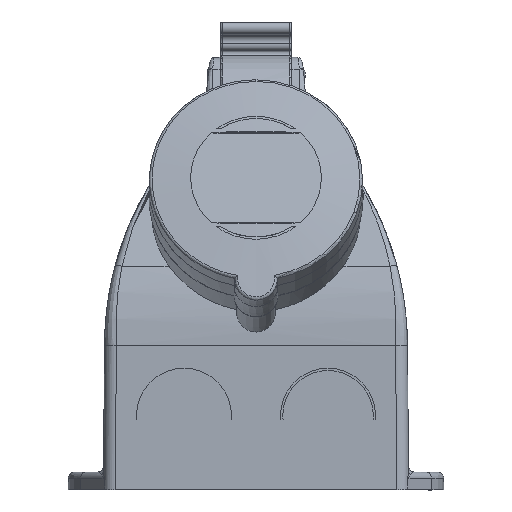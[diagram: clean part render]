
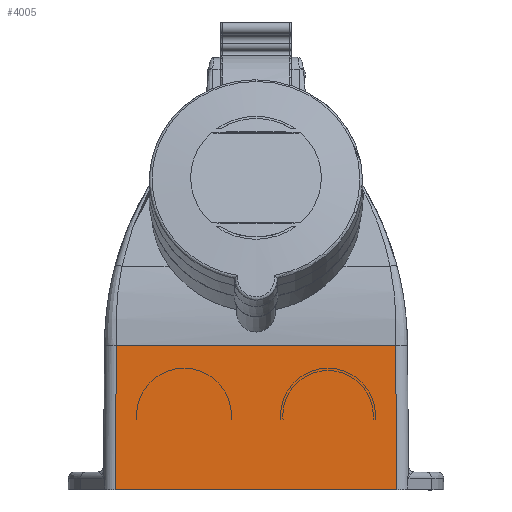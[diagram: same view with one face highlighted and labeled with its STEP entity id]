
A CAD part, front view. The second image highlights one B-rep face of the part: STEP entity #4005.
In plain terms, the highlighted planar face has unit normal (0, -1, 0.009).
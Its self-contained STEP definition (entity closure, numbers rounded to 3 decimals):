
#2153=PLANE('',#15306);
#4005=ADVANCED_FACE('',(#4895),#2153,.T.);
#4895=FACE_OUTER_BOUND('',#5594,.T.);
#5594=EDGE_LOOP('',(#7140,#7141,#7142,#7143));
#7140=ORIENTED_EDGE('',*,*,#11990,.T.);
#7141=ORIENTED_EDGE('',*,*,#11866,.T.);
#7142=ORIENTED_EDGE('',*,*,#11991,.F.);
#7143=ORIENTED_EDGE('',*,*,#11992,.T.);
#10222=VERTEX_POINT('',#20515);
#10223=VERTEX_POINT('',#20517);
#10319=VERTEX_POINT('',#21291);
#10320=VERTEX_POINT('',#21293);
#11866=EDGE_CURVE('',#10223,#10222,#13867,.T.);
#11990=EDGE_CURVE('',#10319,#10223,#13906,.T.);
#11991=EDGE_CURVE('',#10320,#10222,#13907,.T.);
#11992=EDGE_CURVE('',#10320,#10319,#13908,.T.);
#13867=LINE('',#20516,#14460);
#13906=LINE('',#21290,#14499);
#13907=LINE('',#21292,#14500);
#13908=LINE('',#21294,#14501);
#14460=VECTOR('',#16942,1.);
#14499=VECTOR('',#17125,1.);
#14500=VECTOR('',#17126,1.);
#14501=VECTOR('',#17127,1.);
#15306=AXIS2_PLACEMENT_3D('',#21295,#17128,#17129);
#16942=DIRECTION('',(1.,0.,0.));
#17125=DIRECTION('',(-0.009,-0.009,-1.));
#17126=DIRECTION('',(0.009,-0.009,-1.));
#17127=DIRECTION('',(-1.,0.,0.));
#17128=DIRECTION('',(0.,-1.,0.009));
#17129=DIRECTION('',(1.,0.,0.));
#20515=CARTESIAN_POINT('',(61.326,-51.526,-48.5));
#20516=CARTESIAN_POINT('',(-33.521,-51.526,-48.5));
#20517=CARTESIAN_POINT('',(-33.521,-51.526,-48.5));
#21290=CARTESIAN_POINT('',(-33.098,-51.103,0.));
#21291=CARTESIAN_POINT('',(-33.098,-51.103,0.));
#21292=CARTESIAN_POINT('',(60.902,-51.103,0.));
#21293=CARTESIAN_POINT('',(60.902,-51.103,0.));
#21294=CARTESIAN_POINT('',(60.902,-51.103,0.));
#21295=CARTESIAN_POINT('',(65.326,-51.103,0.));
